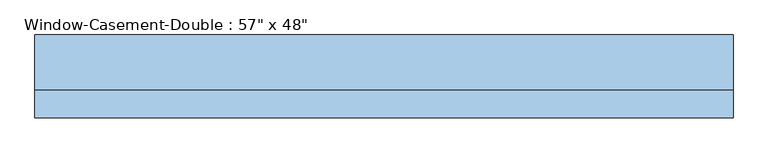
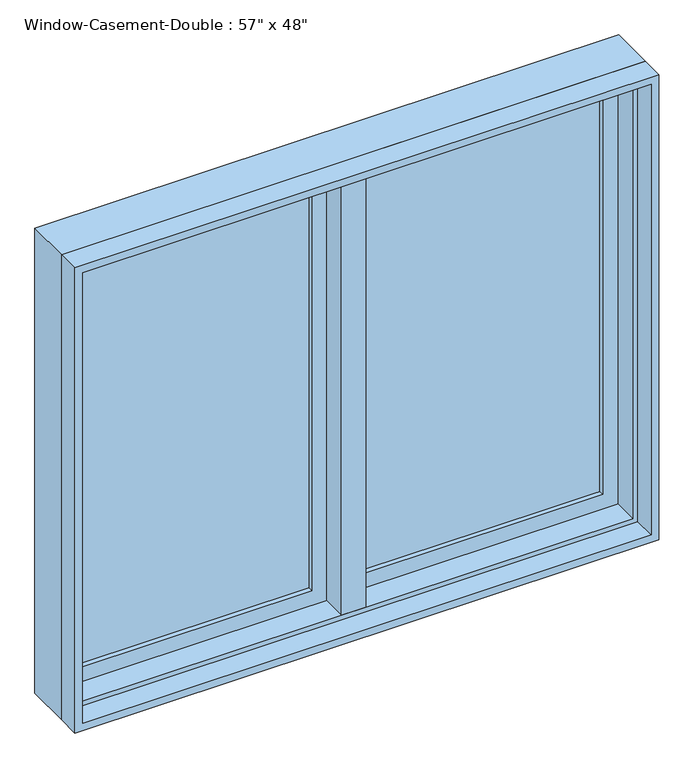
"""IFC4 building model written with IfcOpenShell, lengths in millimetres: window geometry."""

from ifc_helpers import new_model, si_unit, frame, origin, place, context, project, spatial, polyline, outline, extrude, faceted_brep, source, transform, mapped, element, save


def window_b63bc7d6(model_context):
    return source(origin(), model_context, "Body", "SolidModel", [
        faceted_brep([(9.525, 95.25, 2120.9), (-9.525, 95.25, 2120.9), (-9.525, 44.45, 2120.9), (9.525, 44.45, 2120.9), (9.525, 95.25, 927.1), (9.525, 44.45, 927.1), (-9.525, 44.45, 927.1), (-9.525, 95.25, 927.1), (-9.525, 44.45, 946.15), (-9.525, 44.45, 2101.85), (-30.1625, 44.45, 946.15), (-30.1625, 44.45, 2101.85), (-30.1625, -19.05, 946.15), (-30.1625, -19.05, 2101.85), (30.1625, -19.05, 946.15), (30.1625, -19.05, 2101.85), (30.1625, 44.45, 946.15), (30.1625, 44.45, 2101.85), (9.525, 44.45, 946.15), (9.525, 44.45, 2101.85)], [[[0, 1, 2, 3]], [[4, 5, 6, 7]], [[1, 0, 4, 7]], [[2, 1, 7, 6, 8, 9]], [[9, 8, 10, 11]], [[11, 10, 12, 13]], [[13, 12, 14, 15]], [[15, 14, 16, 17]], [[17, 16, 18, 19]], [[0, 3, 19, 18, 5, 4]], [[18, 8, 6, 5]], [[9, 19, 3, 2]], [[8, 18, 16, 14, 12, 10]], [[19, 9, 11, 13, 15, 17]]]),
        extrude(outline(polyline([(-66.675, 76.2), (-66.675, 69.85), (-654.05, 69.85), (-654.05, 76.2), (-66.675, 76.2)])), frame((0.0, 0.0, 984.25), z_axis=(0.0, 0.0, 1.0), x_axis=(1.0, 0.0, 0.0)), (0.0, 0.0, 1.0), 1079.5),
        extrude(outline(polyline([(-654.05, 57.15), (-654.05, 63.5), (-66.675, 63.5), (-66.675, 57.15), (-654.05, 57.15)])), frame((0.0, 0.0, 984.25), z_axis=(0.0, 0.0, 1.0), x_axis=(1.0, 0.0, 0.0)), (0.0, 0.0, 1.0), 1079.5),
        extrude(outline(polyline([(654.05, 76.2), (654.05, 69.85), (66.675, 69.85), (66.675, 76.2), (654.05, 76.2)])), frame((0.0, 0.0, 984.25), z_axis=(0.0, 0.0, 1.0), x_axis=(1.0, 0.0, 0.0)), (0.0, 0.0, 1.0), 1079.5),
        extrude(outline(polyline([(66.675, 57.15), (66.675, 63.5), (654.05, 63.5), (654.05, 57.15), (66.675, 57.15)])), frame((0.0, 0.0, 984.25), z_axis=(0.0, 0.0, 1.0), x_axis=(1.0, 0.0, 0.0)), (0.0, 0.0, 1.0), 1079.5),
        extrude(outline(polyline([(2120.9, -711.2), (927.1, -711.2), (927.1, -9.525), (2120.9, -9.525), (2120.9, -711.2)]), holes=[polyline([(2063.75, -66.675), (984.25, -66.675), (984.25, -654.05), (2063.75, -654.05), (2063.75, -66.675)])]), frame((0.0, 44.45, 0.0), z_axis=(0.0, 1.0, 0.0), x_axis=(0.0, 0.0, 1.0)), (0.0, 0.0, 1.0), 44.45),
        extrude(outline(polyline([(927.1, 711.2), (2120.9, 711.2), (2120.9, 9.525), (927.1, 9.525), (927.1, 711.2)]), holes=[polyline([(984.25, 66.675), (2063.75, 66.675), (2063.75, 654.05), (984.25, 654.05), (984.25, 66.675)])]), frame((0.0, 44.45, 0.0), z_axis=(0.0, 1.0, 0.0), x_axis=(0.0, 0.0, 1.0)), (0.0, 0.0, 1.0), 44.45),
        extrude(outline(polyline([(2133.6, -723.9), (914.4, -723.9), (914.4, 723.9), (2133.6, 723.9), (2133.6, -723.9)]), holes=[polyline([(2114.55, 704.85), (933.45, 704.85), (933.45, -704.85), (2114.55, -704.85), (2114.55, 704.85)])]), frame((0.0, -76.2, 0.0), z_axis=(0.0, 1.0, 0.0), x_axis=(0.0, 0.0, 1.0)), (0.0, 0.0, 1.0), 57.15),
        faceted_brep([(692.15, 44.45, 2101.85), (692.15, -19.05, 2101.85), (-692.15, -19.05, 2101.85), (-692.15, 44.45, 2101.85), (711.2, 95.25, 2120.9), (711.2, 44.45, 2120.9), (-711.2, 44.45, 2120.9), (-711.2, 95.25, 2120.9), (723.9, -19.05, 2133.6), (723.9, 95.25, 2133.6), (-723.9, 95.25, 2133.6), (-723.9, -19.05, 2133.6), (-692.15, -19.05, 946.15), (-692.15, 44.45, 946.15), (-711.2, 44.45, 927.1), (-711.2, 95.25, 927.1), (-723.9, 95.25, 914.4), (-723.9, -19.05, 914.4), (692.15, -19.05, 946.15), (692.15, 44.45, 946.15), (711.2, 44.45, 927.1), (711.2, 95.25, 927.1), (723.9, 95.25, 914.4), (723.9, -19.05, 914.4)], [[[0, 1, 2, 3]], [[4, 5, 6, 7]], [[8, 9, 10, 11]], [[3, 2, 12, 13]], [[7, 6, 14, 15]], [[11, 10, 16, 17]], [[13, 12, 18, 19]], [[15, 14, 20, 21]], [[17, 16, 22, 23]], [[11, 17, 23, 8], [1, 18, 12, 2]], [[19, 18, 1, 0]], [[5, 20, 14, 6], [3, 13, 19, 0]], [[21, 20, 5, 4]], [[23, 22, 9, 8]], [[9, 22, 16, 10], [7, 15, 21, 4]]]),
    ])


if __name__ == "__main__":
    model = new_model("IFC4")
    model_context = context("Model", 3, world=origin())
    ifc_project = project(units=[si_unit("LENGTHUNIT", "METRE", prefix="MILLI")], contexts=[model_context])
    site = spatial("IfcSite", under=ifc_project)
    building = spatial("IfcBuilding", under=site)
    placement = place(None, origin())
    window_shape = window_b63bc7d6(model_context)
    element("IfcWindow", 1, ObjectType="Window-Casement-Double : 57\" x 48\"", at=placement, inside=building, context=model_context, shape_type="MappedRepresentation", body=[
        mapped(window_shape, transform((0.0, 0.0, 0.0), x_axis=(1.0, 0.0, 0.0), y_axis=(0.0, 1.0, 0.0), z_axis=(0.0, 0.0, 1.0))),
    ])
    save(model, "model.ifc")
